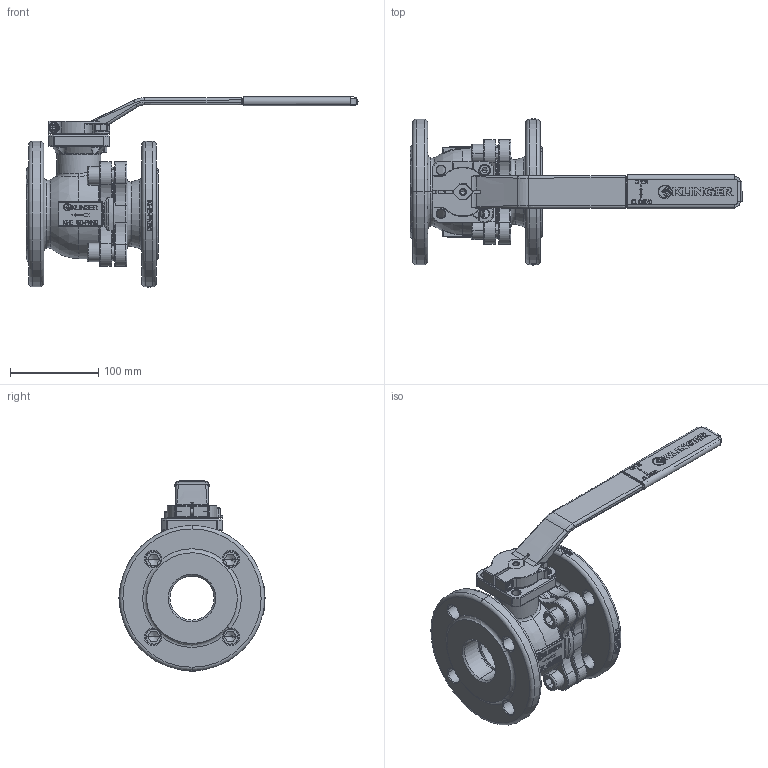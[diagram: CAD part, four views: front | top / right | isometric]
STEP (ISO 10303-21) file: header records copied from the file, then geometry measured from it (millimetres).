
FILE_DESCRIPTION((''),'2;1');
FILE_NAME('KHEFK050VFK050P040XKK','2016-02-16T',('santag'),('RAND'),'PRO/ENGINEER BY PARAMETRIC TECHNOLOGY CORPORATION, 2013410','PRO/ENGINEER BY PARAMETRIC TECHNOLOGY CORPORATION, 2013410','');
FILE_SCHEMA(('CONFIG_CONTROL_DESIGN'));
Products named in the file (1): KHEFK050VFK050P040XKK
Bounding box: 377 x 165.8 x 215.95 mm (x, y, z)
Volume: 1500260 mm3; surface area: 307006 mm2
Topology: 1 solids, 3 shells, 3087 faces, 8127 edges, 5147 vertices
Faces by surface type: plane 1884, cylinder 457, torus 306, bspline 266, cone 137, sphere 37
Entity records: 119259 total; most frequent: CARTESIAN_POINT 44992, ORIENTED_EDGE 16206, DIRECTION 14483, EDGE_CURVE 8103, VERTEX_POINT 5147, VECTOR 4919, LINE 4919, AXIS2_PLACEMENT_3D 4782
